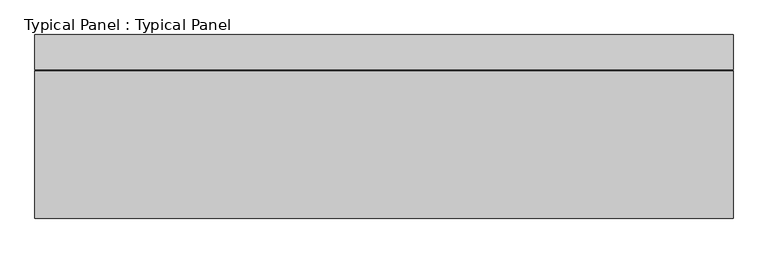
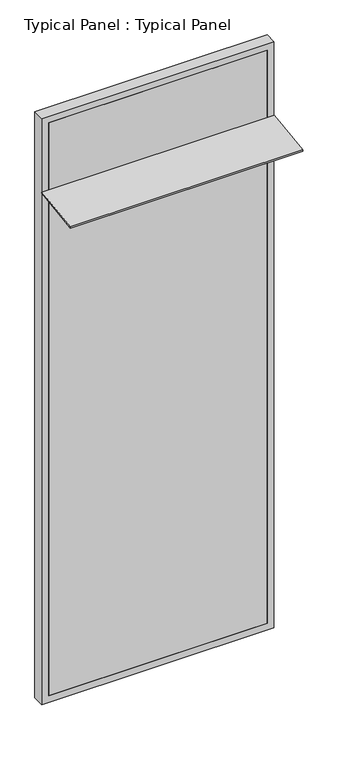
"""IFC4 building model written with IfcOpenShell, lengths in millimetres: plate geometry, Typical Panel : Typical Panel."""

from ifc_helpers import new_model, si_unit, frame, origin, place, context, project, spatial, polyline, outline, extrude, source, transform, mapped, element, save


def typical_panel_typical_panel_9318e441(model_context):
    return source(origin(), model_context, "Body", "SweptSolid", [
        extrude(outline(polyline([(0.0, -320.0), (0.0, 0.0), (1500.00002, 0.0), (1500.00002, -320.0), (0.0, -320.0)])), frame((750.00001, -320.494051, 3445.561927), z_axis=(0.0, -0.1391731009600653, 0.9902680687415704), x_axis=(-1.0, 0.0, 0.0)), (0.0, 0.0, 1.0), 10.0),
        extrude(outline(polyline([(0.0, -750.00001), (0.0, 750.00001), (4000.0, 750.00001), (4000.0, -750.00001), (0.0, -750.00001)]), holes=[polyline([(45.0, 705.00001), (45.0, -705.00001), (3955.0, -705.00001), (3955.0, 705.00001), (45.0, 705.00001)])]), frame((0.0, -1.5797986, 0.0), z_axis=(0.0, 1.0, 0.0), x_axis=(0.0, 0.0, 1.0)), (0.0, 0.0, 1.0), 75.0),
        extrude(outline(polyline([(705.00001, -1.5797986), (-705.00001, -1.5797986), (-705.00001, 13.4202014), (705.00001, 13.4202014), (705.00001, -1.5797986)])), frame((0.0, 0.0, 45.0), z_axis=(0.0, 0.0, 1.0), x_axis=(1.0, 0.0, 0.0)), (0.0, 0.0, 1.0), 3910.0),
    ])


if __name__ == "__main__":
    model = new_model("IFC4")
    model_context = context("Model", 3, world=origin())
    ifc_project = project(units=[si_unit("LENGTHUNIT", "METRE", prefix="MILLI")], contexts=[model_context])
    site = spatial("IfcSite", under=ifc_project)
    building = spatial("IfcBuilding", under=site)
    placement = place(None, origin())
    typical_panel_typical_panel_shape = typical_panel_typical_panel_9318e441(model_context)
    element("IfcPlate", 1, ObjectType="Typical Panel : Typical Panel", at=placement, inside=building, context=model_context, shape_type="MappedRepresentation", body=[
        mapped(typical_panel_typical_panel_shape, transform((0.0, 0.0, 0.0), x_axis=(1.0, 0.0, 0.0), y_axis=(0.0, 1.0, 0.0), z_axis=(0.0, 0.0, 1.0))),
    ])
    save(model, "model.ifc")
